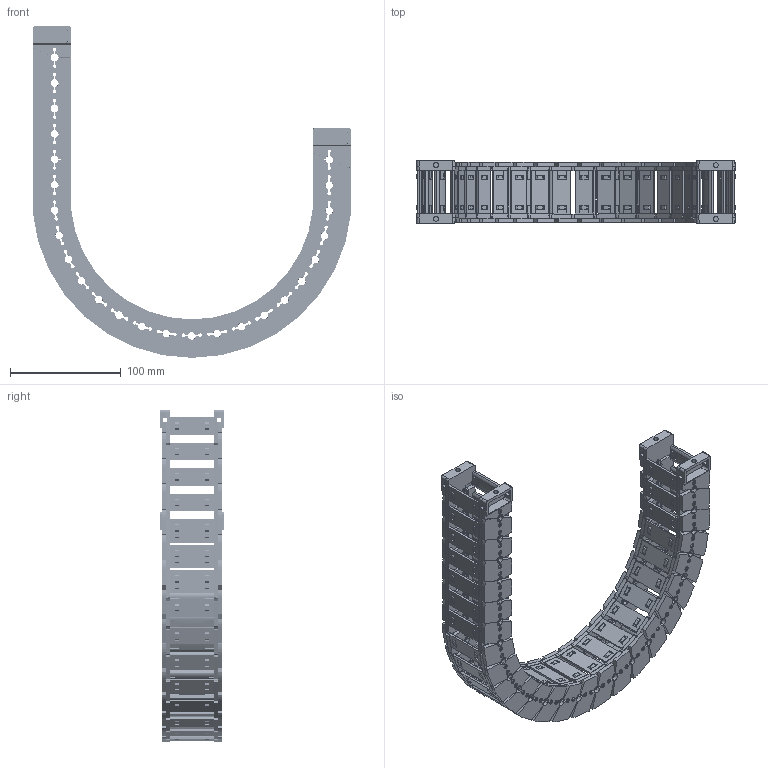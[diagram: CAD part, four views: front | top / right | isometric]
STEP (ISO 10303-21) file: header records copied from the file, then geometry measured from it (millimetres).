
FILE_DESCRIPTION((''),'2;1');
FILE_NAME('JY-28X38-R125_ASM','2026-03-25T19:55:57',('admin'),(''),'CREO PARAMETRIC BY PTC INC, 2021023','CREO PARAMETRIC BY PTC INC, 2021023','');
FILE_SCHEMA(('CONFIG_CONTROL_DESIGN'));
Length unit declared in the file: millimetre
Products named in the file (11): 28XL-L; 25-35XL-YP; 28XL-R; ASM0001_ASM; 28-LTT-A-L; 28-LTT-A-R; 28XL-LTT-A_ASM; 28-LTT-B-L; 28-LTT-B-R; 28XL-LTT-B_ASM; JY-28X38-R125_ASM
Assembly tree (38 placements, depth 3):
  JY-28X38-R125_ASM
    ASM0001_ASM  x24
      28XL-L
      25-35XL-YP
      28XL-R
    28XL-LTT-A_ASM
      28-LTT-A-L
      25-35XL-YP  x2
      28-LTT-A-R
    28XL-LTT-B_ASM
      28-LTT-B-L
      25-35XL-YP  x2
      28-LTT-B-R
Bounding box: 287.57 x 57.5 x 299.79 mm (x, y, z)
Volume: 363904.3 mm3; surface area: 265097.4 mm2
Topology: 104 solids, 104 shells, 8438 faces, 25084 edges, 16750 vertices
Faces by surface type: plane 5532, cone 1522, cylinder 1210, bspline 174
Entity records: 29143 total; most frequent: CARTESIAN_POINT 9496, ORIENTED_EDGE 4352, DIRECTION 3667, EDGE_CURVE 2176, VERTEX_POINT 1454, VECTOR 1365, LINE 1365, AXIS2_PLACEMENT_3D 1151
